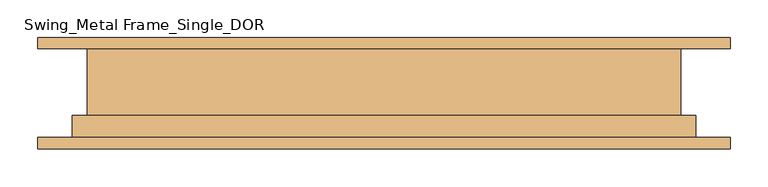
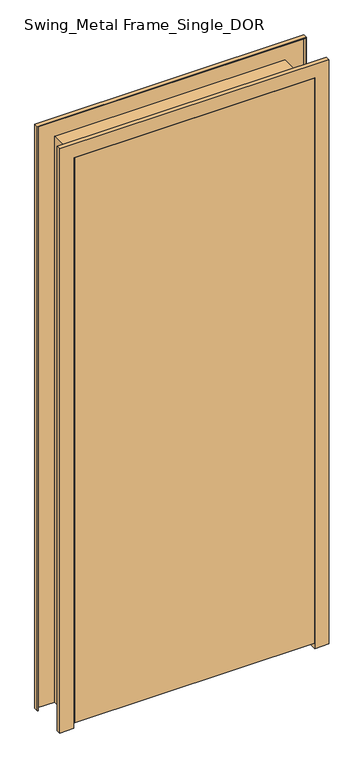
"""IFC4 building model written with IfcOpenShell, lengths in millimetres: door geometry, Swing_Metal Frame_Single_DOR : 2040h x 820 (2110x920 STUD)."""

import ifcopenshell
import ifcopenshell.guid

model = None  # the IFC model being written
_history = None  # IfcOwnerHistory: only IFC2X3 demands one
_inside = {}  # id of a spatial element -> (the spatial element, [elements in it])
_under = {}  # id of a project, library or spatial element -> (it, [spatial elements below it])
_declared = {}  # id of a project -> (the project, [libraries it declares])
_typed = {}  # id of a type object -> (the type object, [elements of that type])
_made_of = {}  # id of a material, layer set ... -> (it, [elements and type objects made of it])


def new_model(schema):
    """Start an empty IFC model of exactly this schema.

    Asked for "IFC4X3", IfcOpenShell would pick the latest addendum, in which some entities
    have other attributes; the version numbers below select the first issue.
    IFC2X3 requires an IfcOwnerHistory on every rooted entity: one is made here for all.
    """
    global model, _history
    if schema == "IFC4X3":
        model = ifcopenshell.file(schema_version=(4, 3, 0, 0))
    else:
        model = ifcopenshell.file(schema=schema)
    _inside.clear()
    _under.clear()
    _declared.clear()
    _typed.clear()
    _made_of.clear()
    _history = None
    if model.schema == "IFC2X3":
        org = make("IfcOrganization", Name="unknown")
        user = make(
            "IfcPersonAndOrganization",
            ThePerson=make("IfcPerson", FamilyName="unknown"),
            TheOrganization=org,
        )
        app = make(
            "IfcApplication",
            ApplicationDeveloper=org,
            Version="unknown",
            ApplicationFullName="unknown",
            ApplicationIdentifier="unknown",
        )
        _history = make(
            "IfcOwnerHistory",
            OwningUser=user,
            OwningApplication=app,
            ChangeAction="ADDED",
            CreationDate=0,
        )
    return model


def make(cls, **values):
    """One entity of the class cls with the attributes given. An attribute that is None is left unset."""
    return model.create_entity(
        cls, **{name: value for name, value in values.items() if value is not None}
    )


def rooted(cls, **values):
    """An entity with a GlobalId (a new one), such as an element, a storey or a relation."""
    return make(cls, GlobalId=ifcopenshell.guid.new(), OwnerHistory=_history, **values)


def si_unit(unit_type, name, prefix=None):
    """IfcSIUnit, for example si_unit("LENGTHUNIT", "METRE", prefix="MILLI")."""
    return make("IfcSIUnit", UnitType=unit_type, Prefix=prefix, Name=name)


def assignment(units):
    """IfcUnitAssignment: the units of a project."""
    return None if units is None else make("IfcUnitAssignment", Units=units)


def point(xyz):
    """IfcCartesianPoint."""
    return None if xyz is None else make("IfcCartesianPoint", Coordinates=xyz)


def direction(xyz):
    """IfcDirection."""
    return None if xyz is None else make("IfcDirection", DirectionRatios=xyz)


def frame(location, z_axis=None, x_axis=None):
    """IfcAxis2Placement3D, a coordinate frame: its origin and axes. An axis left out is left unset."""
    return make(
        "IfcAxis2Placement3D",
        Location=point(location),
        Axis=direction(z_axis),
        RefDirection=direction(x_axis),
    )


def origin():
    """The frame at (0, 0, 0) with its axes left unset."""
    return frame((0.0, 0.0, 0.0))


def place(relative_to, where):
    """IfcLocalPlacement: puts the frame where relative to a parent placement (None: the world)."""
    return make(
        "IfcLocalPlacement", PlacementRelTo=relative_to, RelativePlacement=where
    )


def context(
    kind, dimensions, precision=None, world=None, true_north=None, identifier=None
):
    """IfcGeometricRepresentationContext, for example the 3D "Model" context."""
    return make(
        "IfcGeometricRepresentationContext",
        ContextIdentifier=identifier,
        ContextType=kind,
        CoordinateSpaceDimension=dimensions,
        Precision=precision,
        WorldCoordinateSystem=world,
        TrueNorth=true_north,
    )


def project(units=None, contexts=None):
    """IfcProject with its units and contexts."""
    return rooted(
        "IfcProject",
        Name="project",
        RepresentationContexts=contexts,
        UnitsInContext=assignment(units),
    )


def spatial(cls, under=None, at=None, **own):
    """A site, building, storey or space (cls), placed at a placement, below another one or the project."""
    s = rooted(cls, ObjectPlacement=at, **own)
    if under is not None:
        _under.setdefault(under.id(), (under, []))[1].append(s)
    return s


def polyline(points):
    """IfcPolyline through the points."""
    return make("IfcPolyline", Points=[point(p) for p in points])


def outline(outer, holes=None, kind="AREA"):
    """IfcArbitraryClosedProfileDef: a profile drawn as a closed curve; with holes, ...WithVoids."""
    if holes is None:
        return make("IfcArbitraryClosedProfileDef", ProfileType=kind, OuterCurve=outer)
    return make(
        "IfcArbitraryProfileDefWithVoids",
        ProfileType=kind,
        OuterCurve=outer,
        InnerCurves=holes,
    )


def extrude(swept, where, along, depth):
    """IfcExtrudedAreaSolid: the profile swept, set in the frame where, extruded along a direction by depth."""
    return make(
        "IfcExtrudedAreaSolid",
        SweptArea=swept,
        Position=where,
        ExtrudedDirection=direction(along),
        Depth=depth,
    )


def faces_of(points, faces, orient=None, outer=None):
    """IfcFace entities. A face is a list of loops; a loop is a list of indices into points, from 0.

    orient and outer hold one flag for each loop. By default every Orientation is true, the
    first loop of a face is its IfcFaceOuterBound and the others are IfcFaceBound.
    """
    made = []
    for i, loops in enumerate(faces):
        bounds = []
        for j, loop in enumerate(loops):
            is_outer = j == 0 if outer is None else outer[i][j]
            bounds.append(
                make(
                    "IfcFaceOuterBound" if is_outer else "IfcFaceBound",
                    Bound=make("IfcPolyLoop", Polygon=[points[k] for k in loop]),
                    Orientation=True if orient is None else orient[i][j],
                )
            )
        made.append(make("IfcFace", Bounds=bounds))
    return made


def faceted_brep(points, faces, orient=None, outer=None, voids=None):
    """IfcFacetedBrep: a solid bounded by flat faces; with voids (closed shells), ...WithVoids."""
    shared = [point(p) for p in points]
    hull = make("IfcClosedShell", CfsFaces=faces_of(shared, faces, orient, outer))
    if voids is None:
        return make("IfcFacetedBrep", Outer=hull)
    return make(
        "IfcFacetedBrepWithVoids",
        Outer=hull,
        Voids=[
            make(cls, CfsFaces=faces_of(shared, fs, o, b)) for cls, fs, o, b in voids
        ],
    )


def shape(context_of_items, identifier, shape_type, items):
    """IfcShapeRepresentation: the items that make up one representation, for example the "Body"."""
    return make(
        "IfcShapeRepresentation",
        ContextOfItems=context_of_items,
        RepresentationIdentifier=identifier,
        RepresentationType=shape_type,
        Items=items,
    )


def source(mapping_origin, context_of_items, identifier, shape_type, items):
    """IfcRepresentationMap: a shape defined once, which mapped items show again and again."""
    return make(
        "IfcRepresentationMap",
        MappingOrigin=mapping_origin,
        MappedRepresentation=shape(context_of_items, identifier, shape_type, items),
    )


def transform(
    local_origin,
    x_axis=None,
    y_axis=None,
    z_axis=None,
    scale=None,
    scale2=None,
    scale3=None,
    uniform=True,
):
    """IfcCartesianTransformationOperator3D, or its non-uniform kind. x_axis, y_axis, z_axis: its Axis1, 2, 3."""
    if uniform:
        return make(
            "IfcCartesianTransformationOperator3D",
            Axis1=direction(x_axis),
            Axis2=direction(y_axis),
            LocalOrigin=point(local_origin),
            Scale=scale,
            Axis3=direction(z_axis),
        )
    return make(
        "IfcCartesianTransformationOperator3DnonUniform",
        Axis1=direction(x_axis),
        Axis2=direction(y_axis),
        LocalOrigin=point(local_origin),
        Scale=scale,
        Axis3=direction(z_axis),
        Scale2=scale2,
        Scale3=scale3,
    )


def mapped(mapping_source, mapping_target):
    """IfcMappedItem: shows the shape of a source again, moved by a transform."""
    return make(
        "IfcMappedItem", MappingSource=mapping_source, MappingTarget=mapping_target
    )


def made_of(thing, what):
    """Note that an element or type object is made of a material, layer set ...; save() writes the relation."""
    if what is not None:
        _made_of.setdefault(what.id(), (what, []))[1].append(thing)
    return thing


def element(
    cls,
    number,
    at=None,
    inside=None,
    cuts=None,
    type_object=None,
    material=None,
    context=None,
    identifier="Body",
    shape_type=None,
    held_by="IfcProductDefinitionShape",
    body=None,
    shapes=None,
    **own,
):
    """One element of the class cls, such as IfcWall. Its Tag is "e" and its number.

    at: its placement. inside: the storey or other place that contains it. cuts: it is an
    opening in that element (IfcRelVoidsElement). A single representation is given by context,
    identifier, shape_type and body (its items); several are given by shapes. held_by: the class
    of the entity that holds the representations. save() writes the other relations.
    """
    e = rooted(cls, Tag="e%d" % number, ObjectPlacement=at, **own)
    if body is not None:
        shapes = [shape(context, identifier, shape_type, body)]
    if shapes is not None:
        e.Representation = make(held_by, Representations=shapes)
    if inside is not None:
        _inside.setdefault(inside.id(), (inside, []))[1].append(e)
    if cuts is not None:
        rooted(
            "IfcRelVoidsElement", RelatingBuildingElement=cuts, RelatedOpeningElement=e
        )
    if type_object is not None:
        _typed.setdefault(type_object.id(), (type_object, []))[1].append(e)
    return made_of(e, material)


def aggregate(whole, parts):
    """IfcRelAggregates: a whole, such as a stair, and the parts it consists of."""
    return rooted("IfcRelAggregates", RelatingObject=whole, RelatedObjects=parts)


def save(model, path):
    """Write the relations noted so far, then the file.

    IfcRelAggregates (storeys below a building ...), IfcRelContainedInSpatialStructure (elements
    in a storey), IfcRelDefinesByType, IfcRelAssociatesMaterial and IfcRelDeclares: one each for
    every whole, place, type object, material and project.
    """
    for whole, parts in _under.values():
        aggregate(whole, parts)
    for where, things in _inside.values():
        rooted(
            "IfcRelContainedInSpatialStructure",
            RelatedElements=things,
            RelatingStructure=where,
        )
    for kind, things in _typed.values():
        rooted("IfcRelDefinesByType", RelatedObjects=things, RelatingType=kind)
    for what, things in _made_of.values():
        rooted("IfcRelAssociatesMaterial", RelatedObjects=things, RelatingMaterial=what)
    for by, libraries in _declared.values():
        rooted("IfcRelDeclares", RelatingContext=by, RelatedDefinitions=libraries)
    model.write(path)


def swing_metal_frame_single_dor_92586886(model_context):
    return source(origin(), model_context, "Body", "SolidModel", [
        extrude(outline(polyline([(410.0, -74.0), (-410.0, -74.0), (-410.0, -34.0), (410.0, -34.0), (410.0, -74.0)])), frame((0.0, 0.0, 20.0), z_axis=(0.0, 0.0, 1.0), x_axis=(1.0, 0.0, 0.0)), (0.0, 0.0, 1.0), 2040.0),
        faceted_brep([(-460.0, 74.0, 0.0), (-392.0, 74.0, 0.0), (-392.0, -32.0, 0.0), (-412.0, -32.0, 0.0), (-412.0, -74.0, 0.0), (-460.0, -74.0, 0.0), (-460.0, -59.0, 0.0), (-458.0, -59.0, 0.0), (-458.0, -72.0, 0.0), (-414.0, -72.0, 0.0), (-414.0, -30.0, 0.0), (-394.0, -30.0, 0.0), (-394.0, 72.0, 0.0), (-458.0, 72.0, 0.0), (-458.0, 59.0, 0.0), (-460.0, 59.0, 0.0), (-460.0, 59.0, 2110.0), (-460.0, 74.0, 2110.0), (-458.0, 59.0, 2108.0), (458.0, 59.0, 2108.0), (458.0, 59.0, 0.0), (460.0, 59.0, 0.0), (460.0, 59.0, 2110.0), (-458.0, 72.0, 2108.0), (-394.0, 72.0, 2044.0), (394.0, 72.0, 2044.0), (394.0, 72.0, 0.0), (458.0, 72.0, 0.0), (458.0, 72.0, 2108.0), (-394.0, -30.0, 2044.0), (-414.0, -30.0, 2064.0), (414.0, -30.0, 2064.0), (414.0, -30.0, 0.0), (394.0, -30.0, 0.0), (394.0, -30.0, 2044.0), (-414.0, -72.0, 2064.0), (-458.0, -72.0, 2108.0), (458.0, -72.0, 2108.0), (458.0, -72.0, 0.0), (414.0, -72.0, 0.0), (414.0, -72.0, 2064.0), (-458.0, -59.0, 2108.0), (-460.0, -59.0, 2110.0), (460.0, -59.0, 2110.0), (460.0, -59.0, 0.0), (458.0, -59.0, 0.0), (458.0, -59.0, 2108.0), (-460.0, -74.0, 2110.0), (-412.0, -74.0, 2062.0), (412.0, -74.0, 2062.0), (412.0, -74.0, 0.0), (460.0, -74.0, 0.0), (460.0, -74.0, 2110.0), (-412.0, -32.0, 2062.0), (-392.0, -32.0, 2042.0), (392.0, -32.0, 2042.0), (392.0, -32.0, 0.0), (412.0, -32.0, 0.0), (412.0, -32.0, 2062.0), (-392.0, 74.0, 2042.0), (460.0, 74.0, 2110.0), (460.0, 74.0, 0.0), (392.0, 74.0, 0.0), (392.0, 74.0, 2042.0)], [[[0, 1, 2, 3, 4, 5, 6, 7, 8, 9, 10, 11, 12, 13, 14, 15]], [[15, 16, 17, 0]], [[14, 18, 19, 20, 21, 22, 16, 15]], [[13, 23, 18, 14]], [[12, 24, 25, 26, 27, 28, 23, 13]], [[11, 29, 24, 12]], [[10, 30, 31, 32, 33, 34, 29, 11]], [[9, 35, 30, 10]], [[8, 36, 37, 38, 39, 40, 35, 9]], [[7, 41, 36, 8]], [[6, 42, 43, 44, 45, 46, 41, 7]], [[5, 47, 42, 6]], [[4, 48, 49, 50, 51, 52, 47, 5]], [[3, 53, 48, 4]], [[2, 54, 55, 56, 57, 58, 53, 3]], [[1, 59, 54, 2]], [[0, 17, 60, 61, 62, 63, 59, 1]], [[22, 21, 61, 60]], [[61, 21, 20, 27, 26, 33, 32, 39, 38, 45, 44, 51, 50, 57, 56, 62]], [[28, 27, 20, 19]], [[34, 33, 26, 25]], [[40, 39, 32, 31]], [[46, 45, 38, 37]], [[52, 51, 44, 43]], [[58, 57, 50, 49]], [[63, 62, 56, 55]], [[16, 22, 60, 17]], [[23, 28, 19, 18]], [[29, 34, 25, 24]], [[35, 40, 31, 30]], [[41, 46, 37, 36]], [[47, 52, 43, 42]], [[53, 58, 49, 48]], [[59, 63, 55, 54]]]),
    ])


if __name__ == "__main__":
    model = new_model("IFC4")
    model_context = context("Model", 3, world=origin())
    ifc_project = project(units=[si_unit("LENGTHUNIT", "METRE", prefix="MILLI")], contexts=[model_context])
    site = spatial("IfcSite", under=ifc_project)
    building = spatial("IfcBuilding", under=site)
    placement = place(None, origin())
    swing_metal_frame_single_dor_shape = swing_metal_frame_single_dor_92586886(model_context)
    element("IfcDoor", 1, ObjectType="Swing_Metal Frame_Single_DOR : 2040h x 820 (2110x920 STUD)", at=placement, inside=building, context=model_context, shape_type="MappedRepresentation", body=[
        mapped(swing_metal_frame_single_dor_shape, transform((0.0, 0.0, 0.0), x_axis=(1.0, 0.0, 0.0), y_axis=(0.0, 1.0, 0.0), z_axis=(0.0, 0.0, 1.0))),
    ])
    save(model, "model.ifc")
